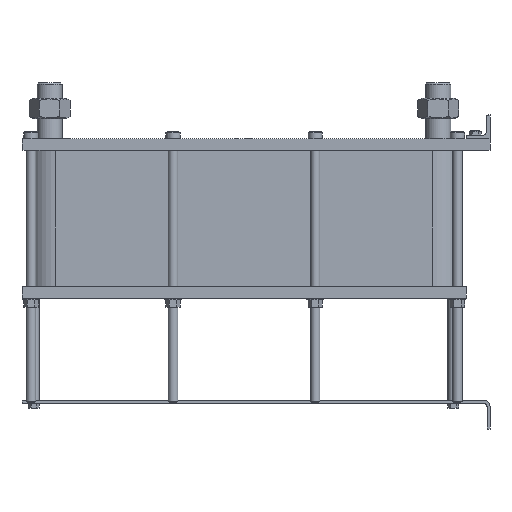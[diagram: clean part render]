
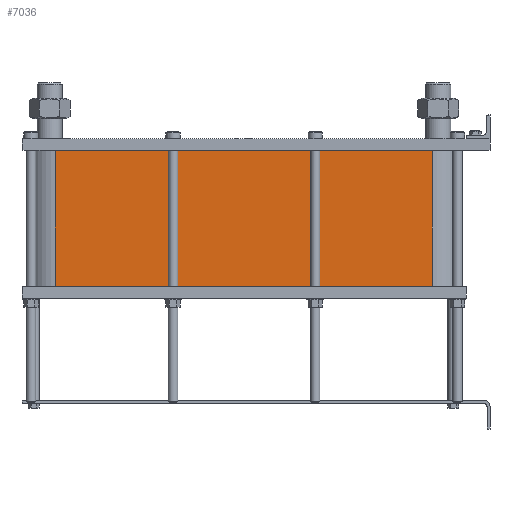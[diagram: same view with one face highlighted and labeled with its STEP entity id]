
A CAD part, left-side view. The second image highlights one B-rep face of the part: STEP entity #7036.
In plain terms, the highlighted planar face has unit normal (-1, 0, 0).
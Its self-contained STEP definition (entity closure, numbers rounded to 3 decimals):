
#999=LINE('',#15640,#1553);
#1031=LINE('',#15723,#1585);
#1032=LINE('',#15726,#1586);
#1033=LINE('',#15727,#1587);
#1553=VECTOR('',#9658,10.);
#1585=VECTOR('',#9736,10.);
#1586=VECTOR('',#9741,10.);
#1587=VECTOR('',#9742,10.);
#2117=FACE_OUTER_BOUND('',#2671,.T.);
#2671=EDGE_LOOP('',(#6246,#6247,#6248,#6249));
#3527=VERTEX_POINT('',#15634);
#3529=VERTEX_POINT('',#15638);
#3556=VERTEX_POINT('',#15720);
#3557=VERTEX_POINT('',#15722);
#4425=EDGE_CURVE('',#3529,#3527,#999,.T.);
#4466=EDGE_CURVE('',#3557,#3556,#1031,.T.);
#4468=EDGE_CURVE('',#3527,#3556,#1032,.T.);
#4469=EDGE_CURVE('',#3557,#3529,#1033,.T.);
#6246=ORIENTED_EDGE('',*,*,#4468,.F.);
#6247=ORIENTED_EDGE('',*,*,#4425,.F.);
#6248=ORIENTED_EDGE('',*,*,#4469,.F.);
#6249=ORIENTED_EDGE('',*,*,#4466,.T.);
#6608=PLANE('',#7812);
#7036=ADVANCED_FACE('',(#2117),#6608,.T.);
#7812=AXIS2_PLACEMENT_3D('',#15725,#9739,#9740);
#9658=DIRECTION('',(0.,0.,-1.));
#9736=DIRECTION('',(0.,0.,-1.));
#9739=DIRECTION('center_axis',(-1.,0.,0.));
#9740=DIRECTION('ref_axis',(0.,1.,0.));
#9741=DIRECTION('',(0.,1.,0.));
#9742=DIRECTION('',(0.,-1.,0.));
#15634=CARTESIAN_POINT('',(-72.,97.5,-229.4));
#15638=CARTESIAN_POINT('',(-72.,97.5,0.));
#15640=CARTESIAN_POINT('',(-72.,97.5,0.));
#15720=CARTESIAN_POINT('',(-72.,733.5,-229.4));
#15722=CARTESIAN_POINT('',(-72.,733.5,0.));
#15723=CARTESIAN_POINT('',(-72.,733.5,0.));
#15725=CARTESIAN_POINT('Origin',(-72.,97.5,0.));
#15726=CARTESIAN_POINT('',(-72.,256.5,-229.4));
#15727=CARTESIAN_POINT('',(-72.,733.5,0.));
